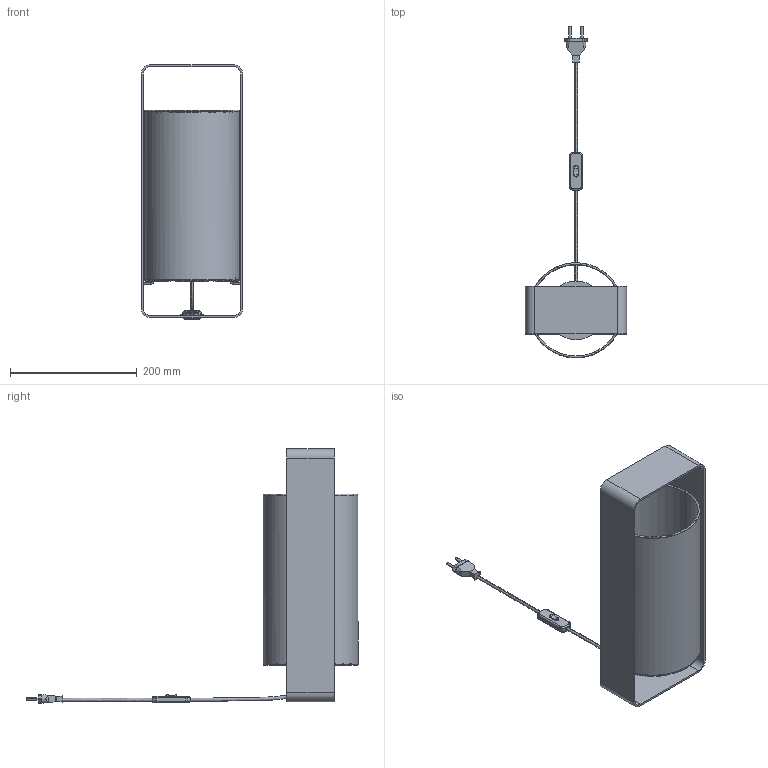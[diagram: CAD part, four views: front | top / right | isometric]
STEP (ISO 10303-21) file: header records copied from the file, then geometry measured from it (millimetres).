
FILE_DESCRIPTION(/* description */ (''),/* implementation_level */ '2;1');
FILE_NAME(/* name */ 'C:\Users\FrancoSartori\Documents\FARO\01_En Proceso\000_SOLICITUD INFO SIN PROCESAR\00_LULA\03_Publicación\LULA_G.stp',/* time_stamp */ '2022-09-01T10:49:11+02:00',/* author */ ('FrancoSartori'),/* organization */ (''),/* preprocessor_version */ 'ST-DEVELOPER v19.2',/* originating_system */ 'AutoCAD Mechanical',/* authorisation */ '');
FILE_SCHEMA (('AUTOMOTIVE_DESIGN { 1 0 10303 214 3 1 1 }'));
Length unit declared in the file: millimetre
Products named in the file (2): Product; LULA_G_ - LAMP-476859-Export
Assembly tree (1 placements, depth 2):
  Product
    LULA_G_ - LAMP-476859-Export
Bounding box: 160 x 524.52 x 402.5 mm (x, y, z)
Volume: 414977.7 mm3; surface area: 485568.2 mm2
Topology: 12 solids, 12 shells, 257 faces, 570 edges, 334 vertices
Faces by surface type: cylinder 109, plane 88, torus 48, bspline 8, sphere 4
Entity records: 20131 total; most frequent: CARTESIAN_POINT 14732, ORIENTED_EDGE 1140, DIRECTION 1006, EDGE_CURVE 570, AXIS2_PLACEMENT_3D 376, VERTEX_POINT 334, EDGE_LOOP 264, FACE_OUTER_BOUND 257
